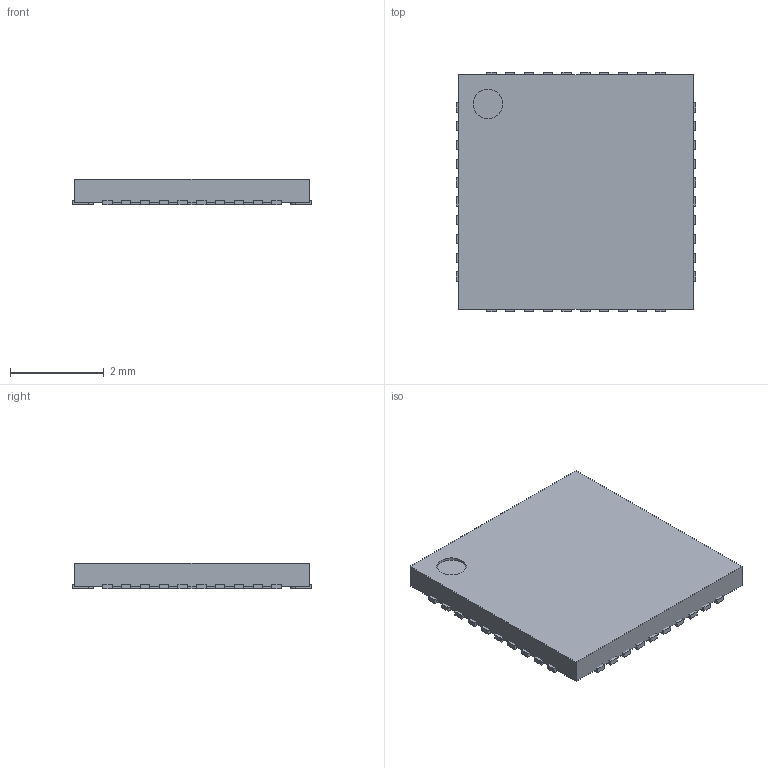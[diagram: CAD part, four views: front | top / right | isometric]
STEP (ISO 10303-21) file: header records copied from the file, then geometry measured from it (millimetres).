
FILE_DESCRIPTION(('CAx-IF Rec.Pracs.---Model Styling and Organization---1.5---2016-08-15','CAx-IF Rec.Pracs.---Geometric and Assembly Validation Properties---4.4---2016-08-17','CAx-IF Rec.Pracs.---User Defined Attributes---1.5---2016-08-15','CAx-IF Rec.Pracs.---External References---2.1---2005-01-19'),'2;1');
FILE_NAME('282189.1.1.step','2024-02-07T15:09:28',('Unspecified'),('Unspecified'),'CAD Exchanger 3.10.2 (cadexchanger.com)','Unspecified','');
FILE_SCHEMA(('AUTOMOTIVE_DESIGN { 1 0 10303 214 1 1 1 1 }'));
Length unit declared in the file: millimetre
Products named in the file (5): ASSEMBLY; Body; ThermalPin; PinsArrayLR; PinsArrayTB
Assembly tree (4 placements, depth 2):
  ASSEMBLY
    Body
    ThermalPin
    PinsArrayLR
    PinsArrayTB
Bounding box: 5.1 x 5.1 x 0.55 mm (x, y, z)
Volume: 14.3 mm3; surface area: 102.2 mm2
Topology: 42 solids, 42 shells, 254 faces, 507 edges, 338 vertices
Faces by surface type: plane 213, cylinder 41
Full cylindrical faces by diameter (mm): 0.625 x1
Entity records: 6832 total; most frequent: CARTESIAN_POINT 1101, DIRECTION 1101, ORIENTED_EDGE 1014, EDGE_CURVE 507, LINE 425, VECTOR 425, AXIS2_PLACEMENT_3D 338, VERTEX_POINT 338
